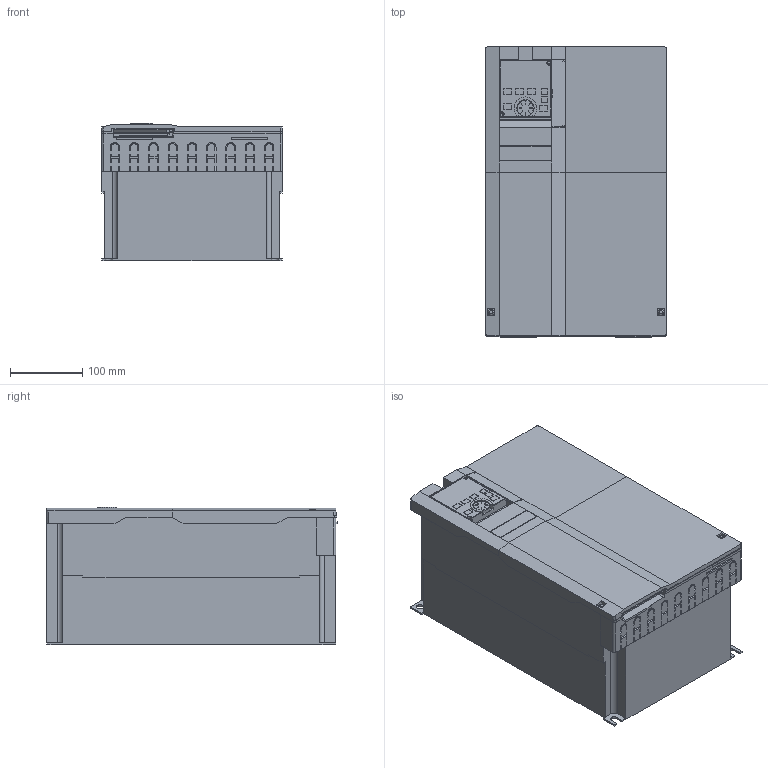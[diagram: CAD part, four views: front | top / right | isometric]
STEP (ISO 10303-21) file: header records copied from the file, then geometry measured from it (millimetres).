
FILE_DESCRIPTION((''),'2;1');
FILE_NAME('3D-INV-A8-01_08_ASM','2014-01-17T',('PZ79677'),(''),'PRO/ENGINEER BY PARAMETRIC TECHNOLOGY CORPORATION, 2011490','PRO/ENGINEER BY PARAMETRIC TECHNOLOGY CORPORATION, 2011490','');
FILE_SCHEMA(('CONFIG_CONTROL_DESIGN'));
Products named in the file (23): 3D-BASE-A8-01_08; 3D-POWER-A8-01_08_ASM; 3D-FAN-92; 3D-FAN_COV-A8-01_08; 3D-TE_NEJI-M4X8_; 3D-TE_COV-R1S1_; 3D-TE_ASSY-A8-R1S1_ASM; 3D-TA-A8; 3D-A8-TA_ASM; 3D-SW-PW-P-M6X14_; 3D-DOT-P1-P-A8-01_08; 3D-SWPWPUPM8X15-A8; 3D-TE_COV-A8-01_08; 3D-TE_ASSY-A8-01_08_ASM; 3D-SEN_COV-A8-01_08; 3D-P-M4X10_; 3D-SEN_COV-ASSY-A8-01_08_ASM; 3D-COV_UPR-A8-01_08; 3D-DU_ASSY-A8; 3D-IF_COV-A80; 3D-COV_UPR-A8-01_08_ASM; 3D-COV_LWR-A8-01_08; 3D-INV-A8-01_08_ASM
Assembly tree (38 placements, depth 3):
  3D-INV-A8-01_08_ASM
    3D-POWER-A8-01_08_ASM
      3D-BASE-A8-01_08
    3D-FAN-92  x2
    3D-FAN_COV-A8-01_08
    3D-TE_ASSY-A8-R1S1_ASM
      3D-TE_NEJI-M4X8_  x4
      3D-TE_COV-R1S1_
    3D-A8-TA_ASM
      3D-TA-A8
    3D-SW-PW-P-M6X14_  x2
    3D-TE_ASSY-A8-01_08_ASM
      3D-DOT-P1-P-A8-01_08
      3D-SWPWPUPM8X15-A8  x11
      3D-TE_COV-A8-01_08
    3D-SEN_COV-ASSY-A8-01_08_ASM
      3D-SEN_COV-A8-01_08
      3D-P-M4X10_  x2
    3D-COV_UPR-A8-01_08_ASM
      3D-COV_UPR-A8-01_08
      3D-DU_ASSY-A8
      3D-IF_COV-A80
    3D-COV_LWR-A8-01_08
Bounding box: 250 x 402 x 190 mm (x, y, z)
Volume: 15348368.4 mm3; surface area: 1075977.6 mm2
Topology: 33 solids, 36 shells, 2690 faces, 7057 edges, 4607 vertices
Faces by surface type: plane 2054, cylinder 548, torus 38, sphere 26, cone 24
Entity records: 72964 total; most frequent: CARTESIAN_POINT 12734, ORIENTED_EDGE 12418, DIRECTION 12048, EDGE_CURVE 6209, VECTOR 5160, LINE 5160, VERTEX_POINT 4104, AXIS2_PLACEMENT_3D 3444
